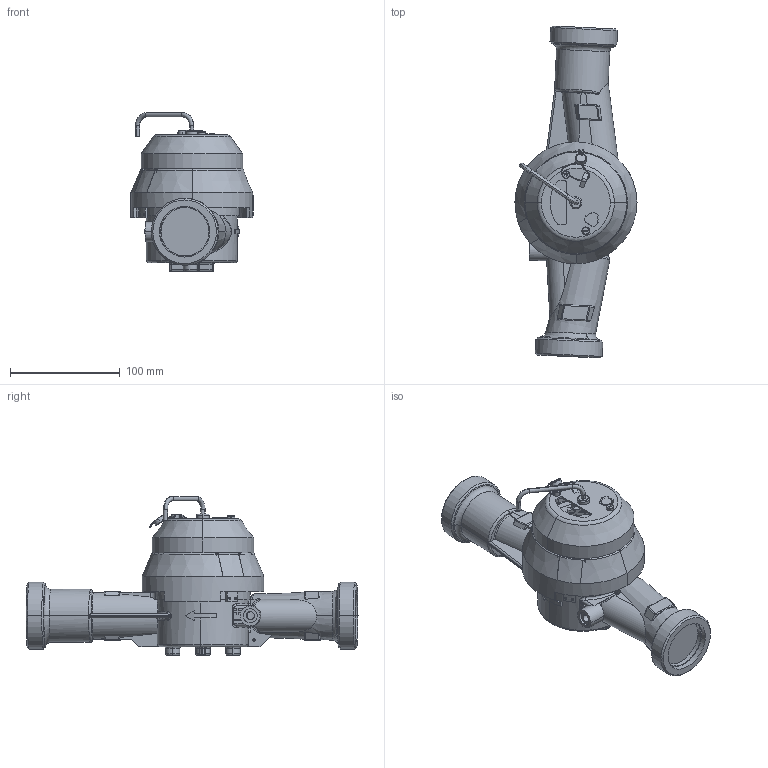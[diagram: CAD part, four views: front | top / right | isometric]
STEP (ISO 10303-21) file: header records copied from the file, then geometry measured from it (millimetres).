
FILE_DESCRIPTION (( 'STEP AP214' ), '1' );
FILE_NAME ('JS130-10-NC.STEP', '2025-07-31T12:00:04', ( '' ), ( '' ), 'SwSTEP 2.0', 'SolidWorks 2019', '' );
FILE_SCHEMA (( 'AUTOMOTIVE_DESIGN' ));
Length unit declared in the file: millimetre
Products named in the file (1): JS130-10-NC
Bounding box: 111.19 x 302.4 x 144.67 mm (x, y, z)
Volume: 883351.7 mm3; surface area: 182568.6 mm2
Topology: 17 solids, 26 shells, 1030 faces, 2667 edges, 1666 vertices
Faces by surface type: plane 484, cylinder 335, torus 79, cone 75, bspline 33, sphere 24
Entity records: 47361 total; most frequent: CARTESIAN_POINT 11158, ORIENTED_EDGE 5270, DIRECTION 5182, EDGE_CURVE 2635, AXIS2_PLACEMENT_3D 1894, VERTEX_POINT 1666, VECTOR 1394, LINE 1394
